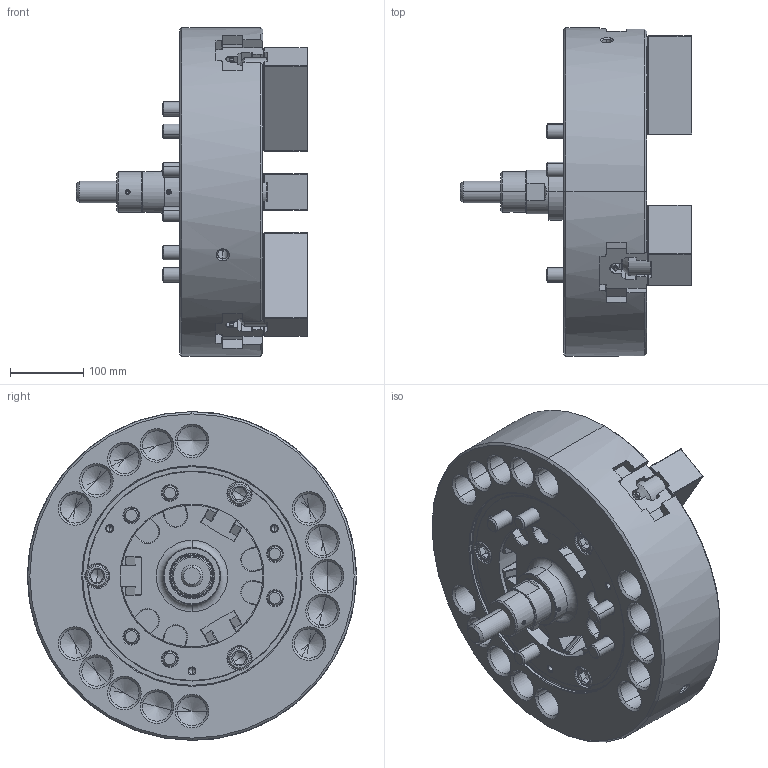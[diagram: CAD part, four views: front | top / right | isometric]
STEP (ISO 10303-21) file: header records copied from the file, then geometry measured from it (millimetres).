
FILE_DESCRIPTION (( 'STEP AP214' ), '1' );
FILE_NAME ('DT1_NL18_OUTSIDE_VIEW_HOL.STEP', '2026-03-22T23:28:34', ( '' ), ( '' ), 'SwSTEP 2.0', 'SolidWorks 2022', '' );
FILE_SCHEMA (( 'AUTOMOTIVE_DESIGN' ));
Length unit declared in the file: millimetre
Products named in the file (11): DT1_NL18_M20x115^DT1_NL18; Copy of 61P321208^DT1_NL18; DT1_NL18_DN^DT1_NL18; DT1_NL18_DRAWSCREW^DT1_NL18; DT1_NL18_OUTSIDE_VIEW_HOL; DT1_NL18_BASE^DT1_NL18; DT1_NL18_TNUT^DT1_NL18; DT1_NL18_M6x12^DT1_NL18; DT1_NL18_M20x55^DT1_NL18; DT1_NL18_SOFTJAW^DT1_NL18; DT1_NL18_COVER^DT1_NL18
Assembly tree (29 placements, depth 2):
  DT1_NL18_OUTSIDE_VIEW_HOL
    DT1_NL18_SOFTJAW^DT1_NL18  x3
    DT1_NL18_TNUT^DT1_NL18  x6
    DT1_NL18_COVER^DT1_NL18
    DT1_NL18_DRAWSCREW^DT1_NL18
    Copy of 61P321208^DT1_NL18
    DT1_NL18_M6x12^DT1_NL18  x3
    DT1_NL18_M20x115^DT1_NL18  x6
    DT1_NL18_M20x55^DT1_NL18  x6
    DT1_NL18_DN^DT1_NL18
    DT1_NL18_BASE^DT1_NL18
Bounding box: 316.38 x 450 x 450 mm (x, y, z)
Volume: 17067821.9 mm3; surface area: 1255016.5 mm2
Topology: 29 solids, 35 shells, 7237 faces, 20470 edges, 13421 vertices
Faces by surface type: plane 5100, cylinder 930, bspline 611, cone 517, torus 79
Entity records: 208123 total; most frequent: CARTESIAN_POINT 67040, ORIENTED_EDGE 32164, DIRECTION 24636, EDGE_CURVE 16082, LINE 12030, VECTOR 12030, VERTEX_POINT 10587, AXIS2_PLACEMENT_3D 6303
